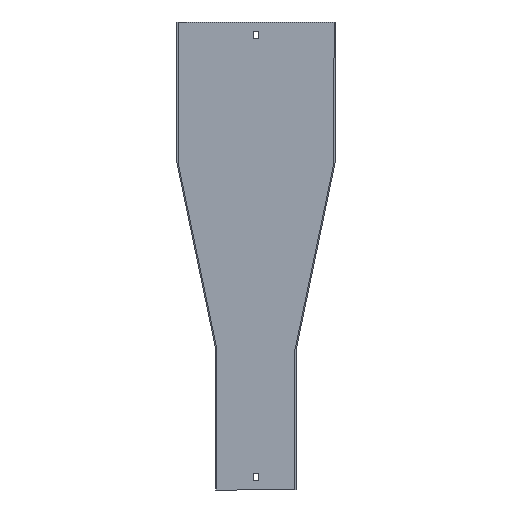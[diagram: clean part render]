
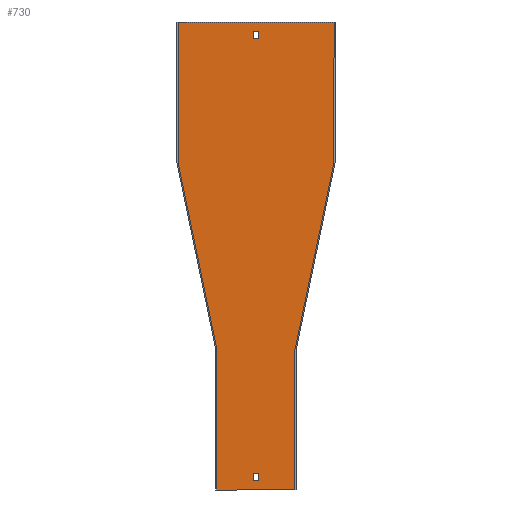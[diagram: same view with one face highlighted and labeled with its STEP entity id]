
A CAD part, front view. The second image highlights one B-rep face of the part: STEP entity #730.
In plain terms, the highlighted planar face has unit normal (0, -1, 0).
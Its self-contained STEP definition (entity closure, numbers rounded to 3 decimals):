
#3 = VERTEX_POINT ( 'NONE', #773 ) ;
#11 = ORIENTED_EDGE ( 'NONE', *, *, #599, .T. ) ;
#17 = CARTESIAN_POINT ( 'NONE',  ( -3.25, -1.5, -12. ) ) ;
#35 = VERTEX_POINT ( 'NONE', #722 ) ;
#38 = VERTEX_POINT ( 'NONE', #712 ) ;
#41 = CARTESIAN_POINT ( 'NONE',  ( -100., -1.5, -179.845 ) ) ;
#45 = CARTESIAN_POINT ( 'NONE',  ( 0., -1.5, -579. ) ) ;
#48 = ORIENTED_EDGE ( 'NONE', *, *, #626, .F. ) ;
#65 = DIRECTION ( 'NONE',  ( 0., 0., -1. ) ) ;
#66 = VERTEX_POINT ( 'NONE', #336 ) ;
#70 = LINE ( 'NONE', #207, #698 ) ;
#73 = CARTESIAN_POINT ( 'NONE',  ( 50., -1.5, -419.845 ) ) ;
#76 = ORIENTED_EDGE ( 'NONE', *, *, #726, .T. ) ;
#83 = DIRECTION ( 'NONE',  ( 0., 0., -1. ) ) ;
#87 = EDGE_CURVE ( 'NONE', #373, #237, #248, .T. ) ;
#90 = VERTEX_POINT ( 'NONE', #244 ) ;
#92 = VECTOR ( 'NONE', #756, 1000. ) ;
#118 = VECTOR ( 'NONE', #319, 1000. ) ;
#125 = LINE ( 'NONE', #395, #810 ) ;
#132 = VECTOR ( 'NONE', #65, 1000. ) ;
#140 = EDGE_CURVE ( 'NONE', #684, #90, #125, .T. ) ;
#141 = EDGE_CURVE ( 'NONE', #342, #228, #398, .T. ) ;
#160 = LINE ( 'NONE', #238, #234 ) ;
#163 = VECTOR ( 'NONE', #263, 1000. ) ;
#188 = LINE ( 'NONE', #394, #807 ) ;
#201 = VECTOR ( 'NONE', #683, 1000. ) ;
#207 = CARTESIAN_POINT ( 'NONE',  ( 50.032, -1.5, -419.694 ) ) ;
#210 = ORIENTED_EDGE ( 'NONE', *, *, #806, .T. ) ;
#214 = EDGE_CURVE ( 'NONE', #90, #3, #670, .T. ) ;
#217 = AXIS2_PLACEMENT_3D ( 'NONE', #765, #584, #649 ) ;
#226 = CARTESIAN_POINT ( 'NONE',  ( 3.25, -1.5, 0. ) ) ;
#228 = VERTEX_POINT ( 'NONE', #745 ) ;
#234 = VECTOR ( 'NONE', #366, 1000. ) ;
#237 = VERTEX_POINT ( 'NONE', #418 ) ;
#238 = CARTESIAN_POINT ( 'NONE',  ( -50., -1.5, -420. ) ) ;
#241 = EDGE_CURVE ( 'NONE', #687, #684, #679, .T. ) ;
#244 = CARTESIAN_POINT ( 'NONE',  ( 3.25, -1.5, -21. ) ) ;
#248 = LINE ( 'NONE', #516, #321 ) ;
#251 = ORIENTED_EDGE ( 'NONE', *, *, #525, .F. ) ;
#256 = FACE_BOUND ( 'NONE', #269, .T. ) ;
#257 = ORIENTED_EDGE ( 'NONE', *, *, #758, .F. ) ;
#263 = DIRECTION ( 'NONE',  ( -1., 0., 0. ) ) ;
#267 = CARTESIAN_POINT ( 'NONE',  ( 3.25, -1.5, 0. ) ) ;
#269 = EDGE_LOOP ( 'NONE', ( #405, #742, #701, #784 ) ) ;
#274 = VERTEX_POINT ( 'NONE', #73 ) ;
#300 = CARTESIAN_POINT ( 'NONE',  ( 101.5, -1.5, 0. ) ) ;
#312 = ORIENTED_EDGE ( 'NONE', *, *, #785, .T. ) ;
#313 = LINE ( 'NONE', #707, #388 ) ;
#319 = DIRECTION ( 'NONE',  ( -1., 0., 0. ) ) ;
#321 = VECTOR ( 'NONE', #384, 1000. ) ;
#331 = CARTESIAN_POINT ( 'NONE',  ( -100., -1.5, 0. ) ) ;
#336 = CARTESIAN_POINT ( 'NONE',  ( 50., -1.5, -600. ) ) ;
#342 = VERTEX_POINT ( 'NONE', #41 ) ;
#366 = DIRECTION ( 'NONE',  ( 0., 0., 1. ) ) ;
#373 = VERTEX_POINT ( 'NONE', #767 ) ;
#375 = CARTESIAN_POINT ( 'NONE',  ( -3.25, -1.5, -579. ) ) ;
#383 = CARTESIAN_POINT ( 'NONE',  ( 0., -1.5, -588. ) ) ;
#384 = DIRECTION ( 'NONE',  ( 0., 0., -1. ) ) ;
#388 = VECTOR ( 'NONE', #717, 1000. ) ;
#390 = FACE_BOUND ( 'NONE', #579, .T. ) ;
#394 = CARTESIAN_POINT ( 'NONE',  ( -3.25, -1.5, 0. ) ) ;
#395 = CARTESIAN_POINT ( 'NONE',  ( 0., -1.5, -21. ) ) ;
#398 = LINE ( 'NONE', #331, #439 ) ;
#404 = LINE ( 'NONE', #664, #132 ) ;
#405 = ORIENTED_EDGE ( 'NONE', *, *, #241, .F. ) ;
#407 = CARTESIAN_POINT ( 'NONE',  ( -3.25, -1.5, 0. ) ) ;
#418 = CARTESIAN_POINT ( 'NONE',  ( 100., -1.5, -179.845 ) ) ;
#420 = ORIENTED_EDGE ( 'NONE', *, *, #141, .F. ) ;
#421 = DIRECTION ( 'NONE',  ( 0., 0., -1. ) ) ;
#439 = VECTOR ( 'NONE', #766, 1000. ) ;
#444 = DIRECTION ( 'NONE',  ( 1., 0., 0. ) ) ;
#481 = VECTOR ( 'NONE', #83, 1000. ) ;
#493 = LINE ( 'NONE', #557, #92 ) ;
#502 = DIRECTION ( 'NONE',  ( 0., 0., 1. ) ) ;
#510 = VERTEX_POINT ( 'NONE', #796 ) ;
#516 = CARTESIAN_POINT ( 'NONE',  ( 100., -1.5, -180. ) ) ;
#525 = EDGE_CURVE ( 'NONE', #274, #66, #404, .T. ) ;
#552 = DIRECTION ( 'NONE',  ( -0.204, 0., -0.979 ) ) ;
#555 = ORIENTED_EDGE ( 'NONE', *, *, #87, .F. ) ;
#557 = CARTESIAN_POINT ( 'NONE',  ( -100.032, -1.5, -179.694 ) ) ;
#559 = VECTOR ( 'NONE', #421, 1000. ) ;
#566 = FACE_OUTER_BOUND ( 'NONE', #827, .T. ) ;
#579 = EDGE_LOOP ( 'NONE', ( #312, #76, #210, #11 ) ) ;
#580 = LINE ( 'NONE', #844, #163 ) ;
#584 = DIRECTION ( 'NONE',  ( 0., -1., 0. ) ) ;
#599 = EDGE_CURVE ( 'NONE', #38, #734, #630, .T. ) ;
#615 = CARTESIAN_POINT ( 'NONE',  ( -3.25, -1.5, -21. ) ) ;
#626 = EDGE_CURVE ( 'NONE', #855, #342, #493, .T. ) ;
#627 = LINE ( 'NONE', #300, #201 ) ;
#630 = LINE ( 'NONE', #226, #559 ) ;
#638 = EDGE_CURVE ( 'NONE', #35, #855, #160, .T. ) ;
#639 = CARTESIAN_POINT ( 'NONE',  ( 3.25, -1.5, -588. ) ) ;
#645 = LINE ( 'NONE', #45, #713 ) ;
#649 = DIRECTION ( 'NONE',  ( 0., 0., -1. ) ) ;
#650 = ORIENTED_EDGE ( 'NONE', *, *, #638, .F. ) ;
#654 = DIRECTION ( 'NONE',  ( 1., 0., 0. ) ) ;
#658 = EDGE_CURVE ( 'NONE', #228, #373, #627, .T. ) ;
#661 = ORIENTED_EDGE ( 'NONE', *, *, #658, .F. ) ;
#664 = CARTESIAN_POINT ( 'NONE',  ( 50., -1.5, -600. ) ) ;
#670 = LINE ( 'NONE', #267, #794 ) ;
#679 = LINE ( 'NONE', #407, #481 ) ;
#683 = DIRECTION ( 'NONE',  ( 1., 0., 0. ) ) ;
#684 = VERTEX_POINT ( 'NONE', #615 ) ;
#687 = VERTEX_POINT ( 'NONE', #17 ) ;
#698 = VECTOR ( 'NONE', #552, 1000. ) ;
#700 = LINE ( 'NONE', #383, #118 ) ;
#701 = ORIENTED_EDGE ( 'NONE', *, *, #214, .F. ) ;
#707 = CARTESIAN_POINT ( 'NONE',  ( 0., -1.5, -12. ) ) ;
#712 = CARTESIAN_POINT ( 'NONE',  ( 3.25, -1.5, -579. ) ) ;
#713 = VECTOR ( 'NONE', #444, 1000. ) ;
#717 = DIRECTION ( 'NONE',  ( -1., 0., 0. ) ) ;
#722 = CARTESIAN_POINT ( 'NONE',  ( -50., -1.5, -600. ) ) ;
#726 = EDGE_CURVE ( 'NONE', #510, #729, #188, .T. ) ;
#729 = VERTEX_POINT ( 'NONE', #375 ) ;
#730 = ADVANCED_FACE ( 'NONE', ( #256, #566, #390 ), #768, .T. ) ;
#732 = DIRECTION ( 'NONE',  ( 0., 0., 1. ) ) ;
#734 = VERTEX_POINT ( 'NONE', #639 ) ;
#742 = ORIENTED_EDGE ( 'NONE', *, *, #764, .F. ) ;
#745 = CARTESIAN_POINT ( 'NONE',  ( -100., -1.5, 0. ) ) ;
#748 = CARTESIAN_POINT ( 'NONE',  ( -50., -1.5, -419.845 ) ) ;
#756 = DIRECTION ( 'NONE',  ( -0.204, 0., 0.979 ) ) ;
#758 = EDGE_CURVE ( 'NONE', #66, #35, #580, .T. ) ;
#764 = EDGE_CURVE ( 'NONE', #3, #687, #313, .T. ) ;
#765 = CARTESIAN_POINT ( 'NONE',  ( 0., -1.5, 0. ) ) ;
#766 = DIRECTION ( 'NONE',  ( 0., 0., 1. ) ) ;
#767 = CARTESIAN_POINT ( 'NONE',  ( 100., -1.5, 0. ) ) ;
#768 = PLANE ( 'NONE',  #217 ) ;
#771 = ORIENTED_EDGE ( 'NONE', *, *, #852, .F. ) ;
#773 = CARTESIAN_POINT ( 'NONE',  ( 3.25, -1.5, -12. ) ) ;
#784 = ORIENTED_EDGE ( 'NONE', *, *, #140, .F. ) ;
#785 = EDGE_CURVE ( 'NONE', #734, #510, #700, .T. ) ;
#794 = VECTOR ( 'NONE', #732, 1000. ) ;
#796 = CARTESIAN_POINT ( 'NONE',  ( -3.25, -1.5, -588. ) ) ;
#806 = EDGE_CURVE ( 'NONE', #729, #38, #645, .T. ) ;
#807 = VECTOR ( 'NONE', #502, 1000. ) ;
#810 = VECTOR ( 'NONE', #654, 1000. ) ;
#827 = EDGE_LOOP ( 'NONE', ( #661, #420, #48, #650, #257, #251, #771, #555 ) ) ;
#844 = CARTESIAN_POINT ( 'NONE',  ( -51.5, -1.5, -600. ) ) ;
#852 = EDGE_CURVE ( 'NONE', #237, #274, #70, .T. ) ;
#855 = VERTEX_POINT ( 'NONE', #748 ) ;
